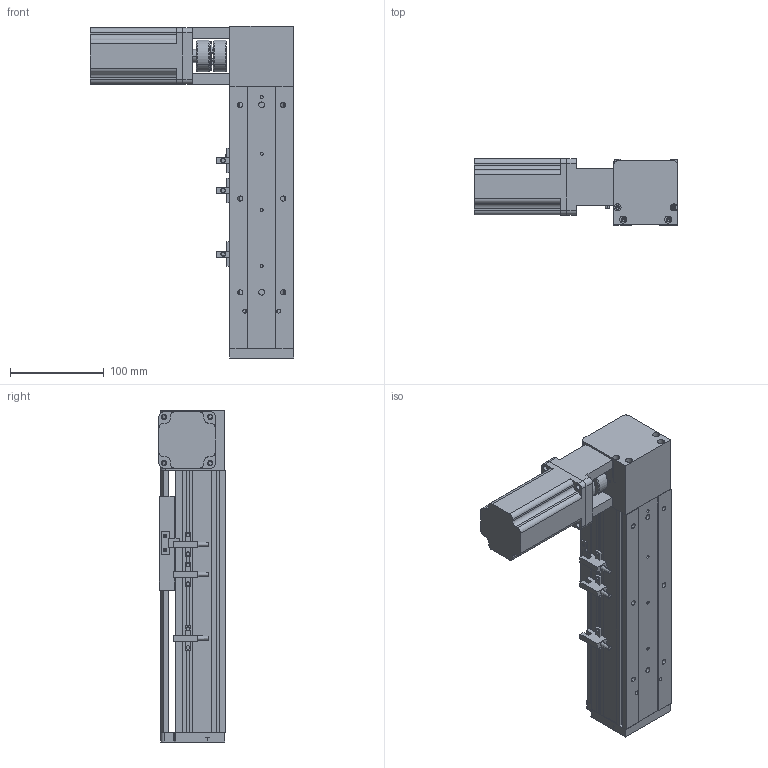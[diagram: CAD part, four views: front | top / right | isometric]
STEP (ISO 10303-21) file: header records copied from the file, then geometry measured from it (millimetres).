
FILE_DESCRIPTION (( 'STEP AP203' ), '1' );
FILE_NAME ('ML68-S100-BL.STEP', '2016-06-01T02:05:31', ( '微软用户' ), ( '微软中国' ), 'SwSTEP 2.0', 'SolidWorks 2014', '' );
FILE_SCHEMA (( 'CONFIG_CONTROL_DESIGN' ));
Length unit declared in the file: millimetre
Products named in the file (11): ML68-S100-BL; MS68-TS0204鎮湛嘐隅釱_蕼偞; ML68-BL傷啣; 換覜ん; 联轴器（CS34X32-8X14）_預設; ML68傷啣; 60換覜結え; ML68雄赽釱; 三协电机MH201N2_預設; ML68-S100奻裔; ML68-S100菁釱
Assembly tree (12 placements, depth 2):
  ML68-S100-BL
    ML68-BL傷啣
    60換覜結え
    ML68-S100菁釱
    ML68傷啣
    換覜ん  x3
    三协电机MH201N2_預設
    联轴器（CS34X32-8X14）_預設
    MS68-TS0204鎮湛嘐隅釱_蕼偞
    ML68-S100奻裔
    ML68雄赽釱
Bounding box: 216.5 x 70.5 x 354 mm (x, y, z)
Volume: 1082078.5 mm3; surface area: 308154.2 mm2
Topology: 13 solids, 13 shells, 787 faces, 2131 edges, 1349 vertices
Faces by surface type: cylinder 357, plane 328, cone 96, bspline 6
Entity records: 24502 total; most frequent: CARTESIAN_POINT 4582, DIRECTION 4049, ORIENTED_EDGE 3786, EDGE_CURVE 1893, AXIS2_PLACEMENT_3D 1474, VERTEX_POINT 1237, VECTOR 1101, LINE 1101
